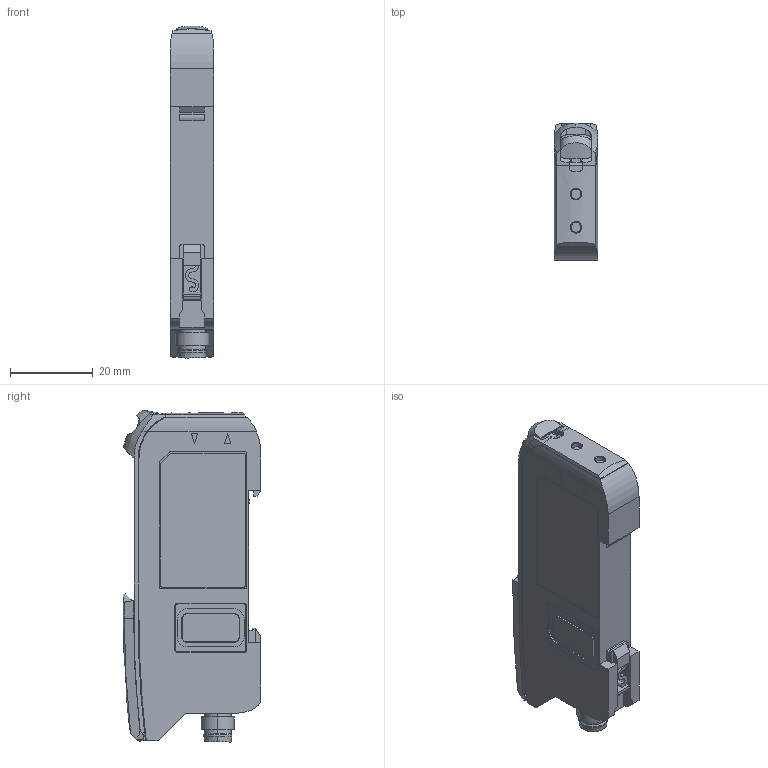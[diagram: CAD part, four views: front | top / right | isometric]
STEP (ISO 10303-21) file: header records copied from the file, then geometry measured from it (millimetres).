
FILE_DESCRIPTION (( 'STEP AP214' ), '1' );
FILE_NAME ('D4RF-TMC4_220425.STEP', '2022-04-25T10:59:51', ( '' ), ( '' ), 'SwSTEP 2.0', 'SolidWorks 2021', '' );
FILE_SCHEMA (( 'AUTOMOTIVE_DESIGN' ));
Length unit declared in the file: millimetre
Products named in the file (3): D4RF-TMC4_220425; 220425363; 220425361
Assembly tree (2 placements, depth 2):
  D4RF-TMC4_220425
    220425363
    220425361
Bounding box: 10.55 x 33.2 x 80.15 mm (x, y, z)
Volume: 22689.4 mm3; surface area: 9483.3 mm2
Topology: 2 solids, 17 shells, 790 faces, 2047 edges, 1301 vertices
Faces by surface type: plane 381, cylinder 208, bspline 168, cone 33
Entity records: 38589 total; most frequent: CARTESIAN_POINT 12092, ORIENTED_EDGE 4038, DIRECTION 3031, EDGE_CURVE 2019, VERTEX_POINT 1301, VECTOR 1089, LINE 1089, AXIS2_PLACEMENT_3D 971
